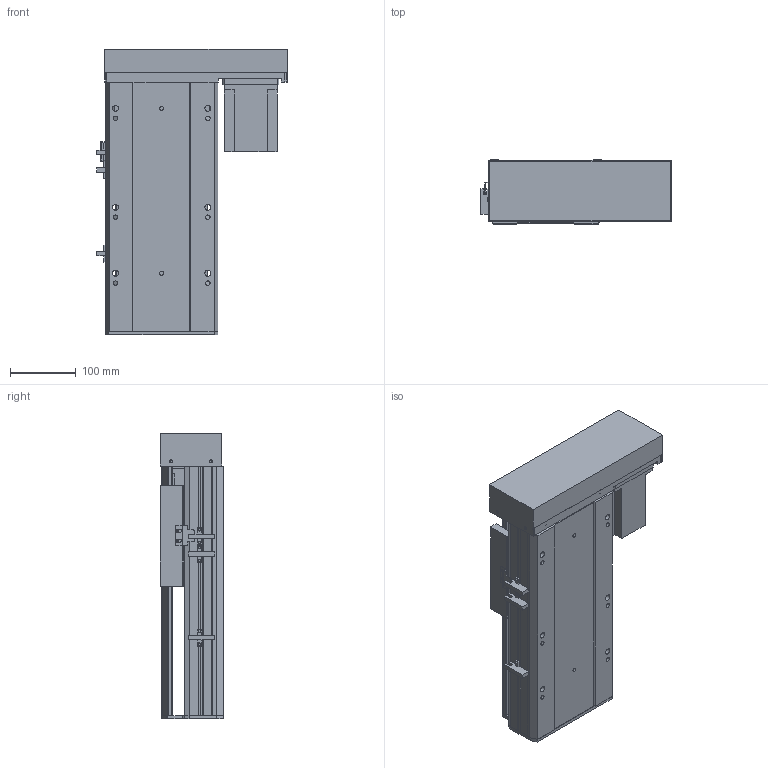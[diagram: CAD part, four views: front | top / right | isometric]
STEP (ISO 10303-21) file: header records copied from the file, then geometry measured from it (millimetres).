
FILE_DESCRIPTION (( 'STEP AP203' ), '1' );
FILE_NAME ('Y170-D10-S150-BR-P750W.STEP', '2020-01-21T12:01:25', ( '微软用户' ), ( '微软中国' ), 'SwSTEP 2.0', 'SolidWorks 2017', '' );
FILE_SCHEMA (( 'CONFIG_CONTROL_DESIGN' ));
Length unit declared in the file: millimetre
Products named in the file (12): EGH20賑輸_蕼偞; Y雄赽釱-耜蚾; Y170-D10-S150-BR-P750W; Y170-陔遴奻裔-BR; Y-BL.BR-俋欶; Y--BL蟀諉啣-陔遴-; Y170耜裔--準---; YD-Y100-135-新外置传感挡片(通用）; 170--掛极-BR; Y100-135俋离換覜ん; Y170-BL-P750W楊擘啣; 侂狟750W
Assembly tree (14 placements, depth 2):
  Y170-D10-S150-BR-P750W
    Y170耜裔--準---
    170--掛极-BR
    Y170-BL-P750W楊擘啣
    侂狟750W
    EGH20賑輸_蕼偞  x2
    Y雄赽釱-耜蚾
    Y170-陔遴奻裔-BR
    Y-BL.BR-俋欶
    Y--BL蟀諉啣-陔遴-
    YD-Y100-135-新外置传感挡片(通用）
    Y100-135俋离換覜ん  x3
Bounding box: 289 x 97 x 433.5 mm (x, y, z)
Volume: 2920329.5 mm3; surface area: 921773.8 mm2
Topology: 14 solids, 14 shells, 885 faces, 2450 edges, 1616 vertices
Faces by surface type: plane 443, cylinder 426, cone 16
Entity records: 27450 total; most frequent: CARTESIAN_POINT 4694, DIRECTION 4588, ORIENTED_EDGE 4396, EDGE_CURVE 2198, AXIS2_PLACEMENT_3D 1618, VERTEX_POINT 1460, VECTOR 1352, LINE 1352
